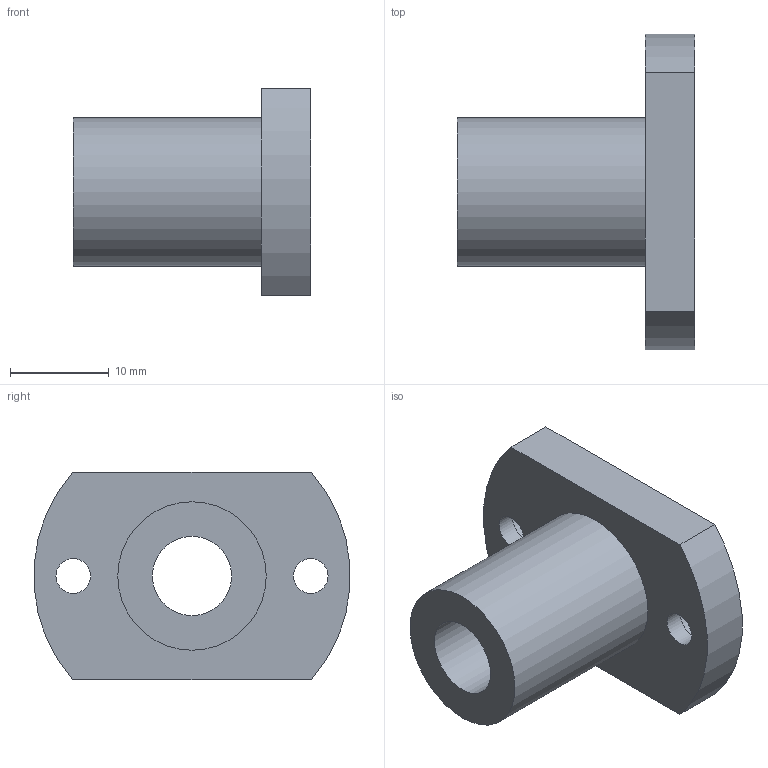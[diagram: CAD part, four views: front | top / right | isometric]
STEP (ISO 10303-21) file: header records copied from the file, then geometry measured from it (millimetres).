
FILE_DESCRIPTION(/* description */ ('Unknown'),/* implementation_level */ '2;1');
FILE_NAME(/* name */ 'LMH8UU',/* time_stamp */ '2025-02-03T14:03:47+08:00',/* author */ ('Unknown'),/* organization */ ('Unknown'),/* preprocessor_version */ 'ST-DEVELOPER v18.102',/* originating_system */ 'Solid Edge',/* authorisation */ 'Unknown');
FILE_SCHEMA (('AUTOMOTIVE_DESIGN {1 0 10303 214 3 1 1}'));
Length unit declared in the file: millimetre
Products named in the file (1): LMH8UU
Bounding box: 24 x 31.9 x 21 mm (x, y, z)
Volume: 5039.5 mm3; surface area: 3228.8 mm2
Topology: 1 solids, 1 shells, 15 faces, 30 edges, 20 vertices
Faces by surface type: cylinder 8, plane 7
Full cylindrical faces by diameter (mm): 3.5 x2, 6 x2, 8 x1, 15 x1
Entity records: 412 total; most frequent: DIRECTION 72, CARTESIAN_POINT 60, ORIENTED_EDGE 48, AXIS2_PLACEMENT_3D 32, EDGE_LOOP 30, FACE_BOUND 30, EDGE_CURVE 24, VERTEX_POINT 20
